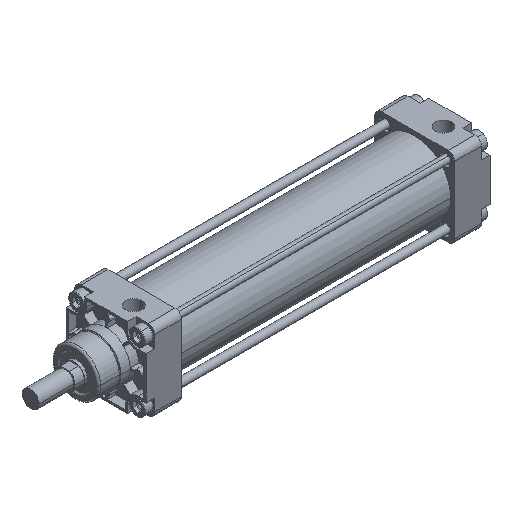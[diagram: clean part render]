
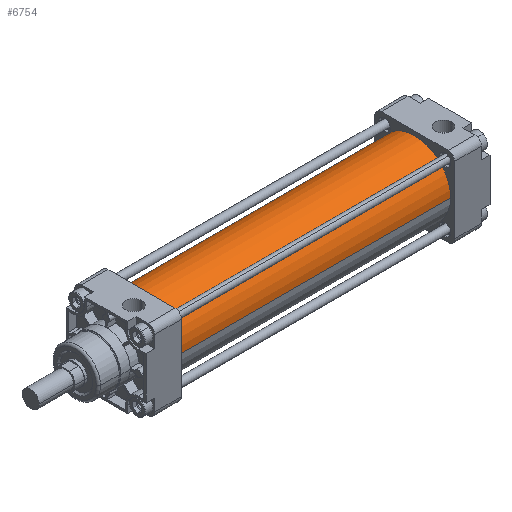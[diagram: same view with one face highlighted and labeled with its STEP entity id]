
A CAD part, isometric view. The second image highlights one B-rep face of the part: STEP entity #6754.
In plain terms, the highlighted cylindrical face has radius 33.5 mm (diameter 67 mm), a partial arc.
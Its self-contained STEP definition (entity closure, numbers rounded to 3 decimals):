
#6391=CARTESIAN_POINT('Vertex',(255.,-33.5,0.)) ;
#6393=CARTESIAN_POINT('Vertex',(255.,33.5,0.)) ;
#6396=CARTESIAN_POINT('Axis2P3D Location',(255.,0.,0.)) ;
#6724=CARTESIAN_POINT('Axis2P3D Location',(127.5,0.,0.)) ;
#6729=CARTESIAN_POINT('Line Origine',(127.5,33.5,0.)) ;
#6733=CARTESIAN_POINT('Vertex',(0.,33.5,0.)) ;
#6736=CARTESIAN_POINT('Axis2P3D Location',(0.,0.,0.)) ;
#6740=CARTESIAN_POINT('Vertex',(0.,-33.5,0.)) ;
#6743=CARTESIAN_POINT('Line Origine',(127.5,-33.5,0.)) ;
#6397=DIRECTION('Axis2P3D Direction',(1.,0.,0.)) ;
#6725=DIRECTION('Axis2P3D Direction',(1.,0.,0.)) ;
#6726=DIRECTION('Axis2P3D XDirection',(0.,1.,0.)) ;
#6730=DIRECTION('Vector Direction',(1.,0.,0.)) ;
#6737=DIRECTION('Axis2P3D Direction',(1.,0.,0.)) ;
#6744=DIRECTION('Vector Direction',(1.,0.,0.)) ;
#6398=AXIS2_PLACEMENT_3D('Circle Axis2P3D',#6396,#6397,$) ;
#6727=AXIS2_PLACEMENT_3D('Cylinder Axis2P3D',#6724,#6725,#6726) ;
#6738=AXIS2_PLACEMENT_3D('Circle Axis2P3D',#6736,#6737,$) ;
#6749=ORIENTED_EDGE('',*,*,#6735,.F.) ;
#6750=ORIENTED_EDGE('',*,*,#6742,.T.) ;
#6751=ORIENTED_EDGE('',*,*,#6747,.T.) ;
#6752=ORIENTED_EDGE('',*,*,#6400,.F.) ;
#6731=VECTOR('Line Direction',#6730,1.) ;
#6745=VECTOR('Line Direction',#6744,1.) ;
#6754=ADVANCED_FACE('PartBody',(#6753),#6728,.T.) ;
#6399=CIRCLE('generated circle',#6398,33.5) ;
#6739=CIRCLE('generated circle',#6738,33.5) ;
#6728=CYLINDRICAL_SURFACE('generated cylinder',#6727,33.5) ;
#6400=EDGE_CURVE('',#6394,#6392,#6399,.T.) ;
#6735=EDGE_CURVE('',#6734,#6394,#6732,.T.) ;
#6742=EDGE_CURVE('',#6734,#6741,#6739,.T.) ;
#6747=EDGE_CURVE('',#6741,#6392,#6746,.T.) ;
#6748=EDGE_LOOP('',(#6749,#6750,#6751,#6752)) ;
#6753=FACE_OUTER_BOUND('',#6748,.T.) ;
#6732=LINE('Line',#6729,#6731) ;
#6746=LINE('Line',#6743,#6745) ;
#6392=VERTEX_POINT('',#6391) ;
#6394=VERTEX_POINT('',#6393) ;
#6734=VERTEX_POINT('',#6733) ;
#6741=VERTEX_POINT('',#6740) ;
